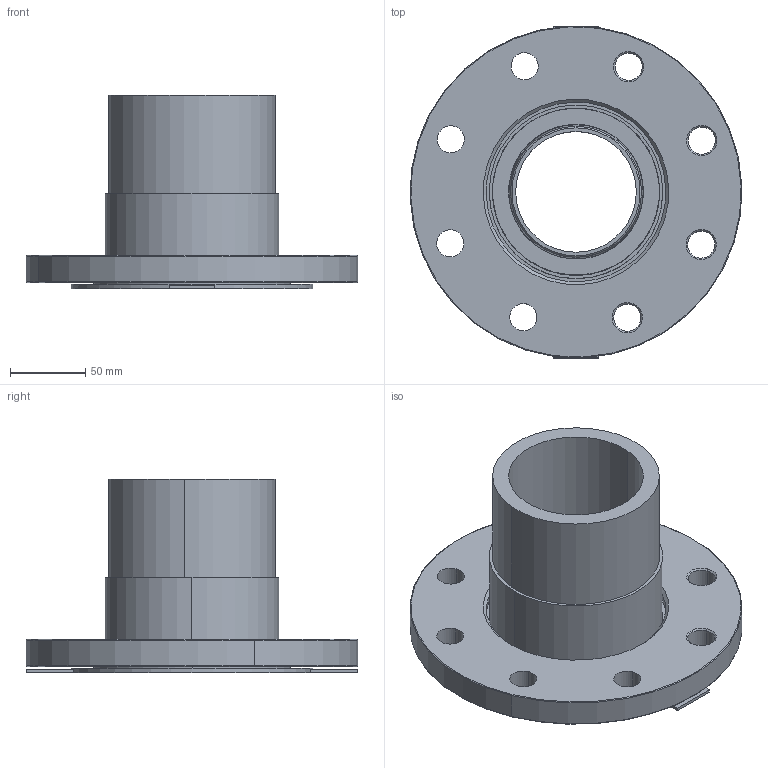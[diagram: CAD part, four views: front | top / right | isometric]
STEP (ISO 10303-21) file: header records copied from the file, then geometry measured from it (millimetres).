
FILE_DESCRIPTION (( 'STEP AP214' ), '1' );
FILE_NAME ('KP_C20-110.STEP', '2011-09-22T05:36:09', ( 'robinj' ), ( 'Microsoft' ), 'SwSTEP 2.0', 'SolidWorks 2011', '' );
FILE_SCHEMA (( 'AUTOMOTIVE_DESIGN' ));
Length unit declared in the file: millimetre
Products named in the file (1): KP_C20-110
Bounding box: 219.84 x 220 x 128 mm (x, y, z)
Volume: 993672 mm3; surface area: 259161.6 mm2
Topology: 3 solids, 3 shells, 98 faces, 220 edges, 136 vertices
Faces by surface type: cylinder 42, cone 22, plane 22, torus 12
Entity records: 2915 total; most frequent: DIRECTION 554, CARTESIAN_POINT 455, ORIENTED_EDGE 440, AXIS2_PLACEMENT_3D 235, EDGE_CURVE 220, VERTEX_POINT 136, CIRCLE 136, EDGE_LOOP 128
